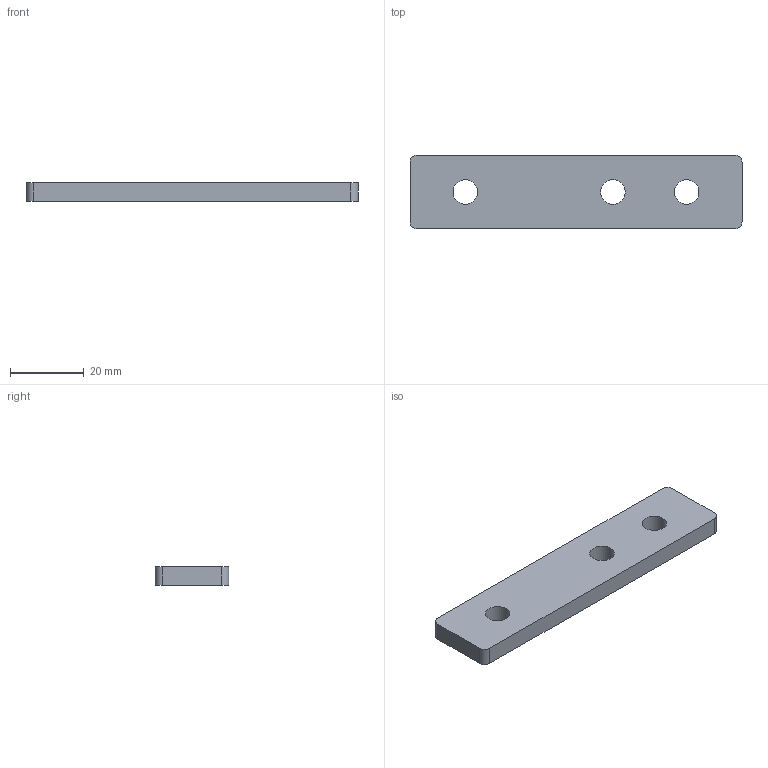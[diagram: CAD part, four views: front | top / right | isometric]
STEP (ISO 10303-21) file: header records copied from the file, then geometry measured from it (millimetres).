
FILE_DESCRIPTION(/* description */ ('CONNECTING STRIP 90MM'),/* implementation_level */ '2;1');
FILE_NAME(/* name */ '\\carryline.intra\privat\users\mathias\Desktop\Tillfälliga filer\100-7015.stp',/* time_stamp */ '2018-11-20T11:14:45+01:00',/* author */ ('PL'),/* organization */ ('CARRYLINE'),/* preprocessor_version */ 'ST-DEVELOPER v17',/* originating_system */ 'Autodesk Inventor 2018',/* authorisation */ '');
FILE_SCHEMA (('AUTOMOTIVE_DESIGN { 1 0 10303 214 3 1 1 }'));
Length unit declared in the file: millimetre
Products named in the file (1): 100-7015
Bounding box: 90 x 20 x 5 mm (x, y, z)
Volume: 8462.3 mm3; surface area: 4781 mm2
Topology: 1 solids, 1 shells, 13 faces, 36 edges, 25 vertices
Faces by surface type: cylinder 7, plane 6
Full cylindrical faces by diameter (mm): 6.647 x3
Entity records: 482 total; most frequent: DIRECTION 81, CARTESIAN_POINT 75, ORIENTED_EDGE 72, EDGE_CURVE 36, AXIS2_PLACEMENT_3D 31, VERTEX_POINT 25, EDGE_LOOP 19, LINE 19
